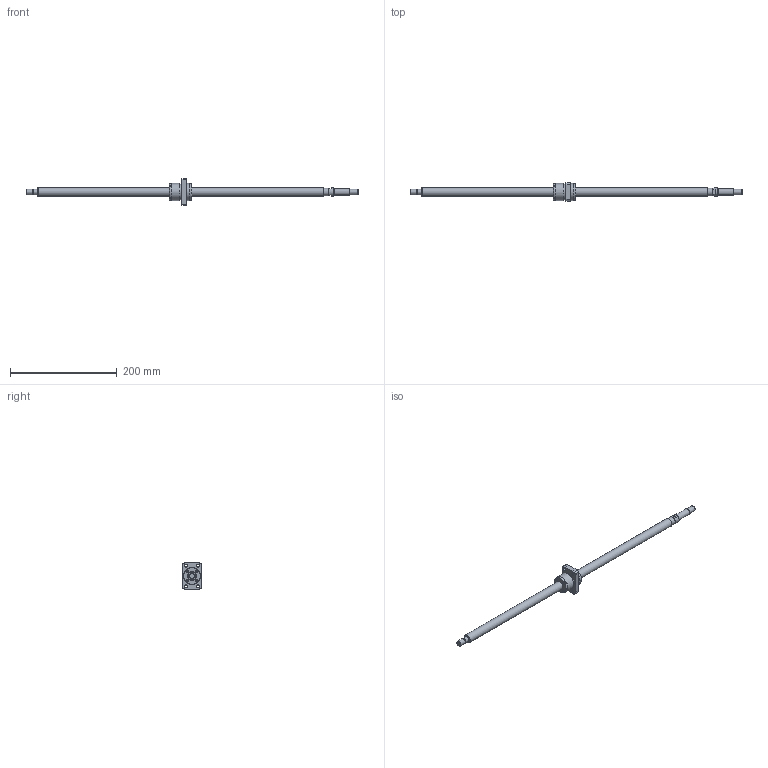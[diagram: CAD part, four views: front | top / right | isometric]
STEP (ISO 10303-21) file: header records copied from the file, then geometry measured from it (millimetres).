
FILE_DESCRIPTION(/* description */ ('STEP AP203'),/* implementation_level */ '2;1');
FILE_NAME(/* name */ 'BNK1616-3.6G0+621LC5Y(2880)',/* time_stamp */ '2024-07-09T09:30:49+02:00',/* author */ ('License CC BY-ND 4.0'),/* organization */ ('CADENAS'),/* preprocessor_version */ 'ST-DEVELOPER v19.3',/* originating_system */ 'PARTsolutions',/* authorisation */ ' ');
FILE_SCHEMA (('CONFIG_CONTROL_DESIGN'));
Length unit declared in the file: millimetre
Products named in the file (3): BNK1616-3.6G0+621LC5Y(2880); BNK 1616-3.6G0+621LC5Y Shaft; BNK 1616-3.6G0+621LC5Y0 Nut
Assembly tree (2 placements, depth 2):
  BNK1616-3.6G0+621LC5Y(2880)
    BNK 1616-3.6G0+621LC5Y Shaft
    BNK 1616-3.6G0+621LC5Y0 Nut
Bounding box: 621 x 34 x 50 mm (x, y, z)
Volume: 148184.8 mm3; surface area: 41830.5 mm2
Topology: 2 solids, 2 shells, 136 faces, 312 edges, 202 vertices
Faces by surface type: plane 75, cylinder 35, cone 20, torus 6
Full cylindrical faces by diameter (mm): 5.188 x1, 5.5 x8, 9.5 x4, 9.6 x1, 10 x3, 12 x1, 14 x1, 15 x1, 16 x2, 28.8 x1, 31.8 x2, 32 x2
Entity records: 3705 total; most frequent: CARTESIAN_POINT 676, DIRECTION 626, ORIENTED_EDGE 530, EDGE_CURVE 265, AXIS2_PLACEMENT_3D 247, FACE_BOUND 210, EDGE_LOOP 209, VERTEX_POINT 197
